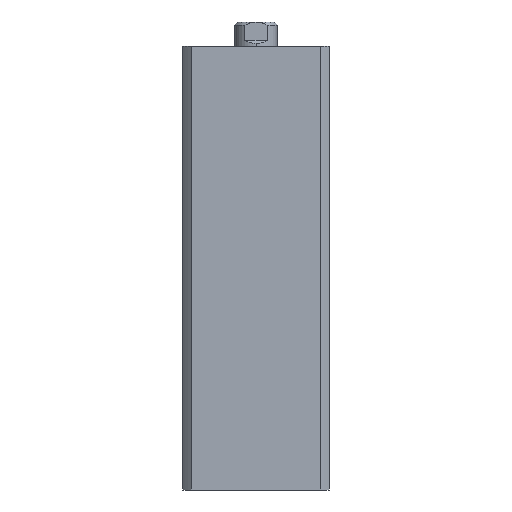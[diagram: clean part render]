
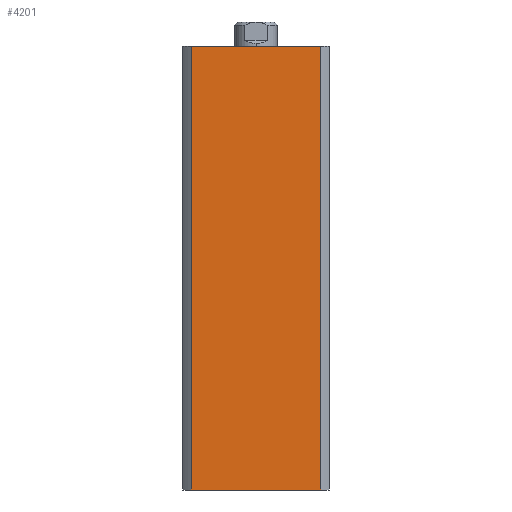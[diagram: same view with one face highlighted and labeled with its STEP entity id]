
A CAD part, left-side view. The second image highlights one B-rep face of the part: STEP entity #4201.
In plain terms, the highlighted planar face has unit normal (-1, 0, 0).
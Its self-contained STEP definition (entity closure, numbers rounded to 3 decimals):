
#44 = DIRECTION ( 'NONE',  ( 0., 0., -1. ) ) ;
#45 = CARTESIAN_POINT ( 'NONE',  ( -24., -21.166, 145. ) ) ;
#394 = EDGE_CURVE ( 'NONE', #4411, #4334, #2704, .T. ) ;
#412 = EDGE_CURVE ( 'NONE', #4334, #4384, #2670, .T. ) ;
#419 = EDGE_CURVE ( 'NONE', #4411, #4311, #2661, .T. ) ;
#528 = EDGE_CURVE ( 'NONE', #4311, #4384, #3374, .T. ) ;
#572 = AXIS2_PLACEMENT_3D ( 'NONE', #986, #994, #995 ) ;
#828 = EDGE_LOOP ( 'NONE', ( #3198, #2941, #2850, #2951 ) ) ;
#986 = CARTESIAN_POINT ( 'NONE',  ( -24., 0., 145. ) ) ;
#991 = PLANE ( 'NONE',  #572 ) ;
#994 = DIRECTION ( 'NONE',  ( 1., 0., 0. ) ) ;
#995 = DIRECTION ( 'NONE',  ( 0., 0., -1. ) ) ;
#1143 = CARTESIAN_POINT ( 'NONE',  ( -24., 21.166, 0. ) ) ;
#1166 = CARTESIAN_POINT ( 'NONE',  ( -24., -21.166, 145. ) ) ;
#1209 = CARTESIAN_POINT ( 'NONE',  ( -24., -21.166, 0. ) ) ;
#1236 = CARTESIAN_POINT ( 'NONE',  ( -24., 21.166, 145. ) ) ;
#1802 = CARTESIAN_POINT ( 'NONE',  ( -24., 0., 0. ) ) ;
#1821 = DIRECTION ( 'NONE',  ( 0., -1., 0. ) ) ;
#2201 = DIRECTION ( 'NONE',  ( 0., 0., -1. ) ) ;
#2202 = CARTESIAN_POINT ( 'NONE',  ( -24., 21.166, 145. ) ) ;
#2658 = VECTOR ( 'NONE', #2201, 1000. ) ;
#2661 = LINE ( 'NONE', #2202, #2658 ) ;
#2670 = LINE ( 'NONE', #45, #2675 ) ;
#2675 = VECTOR ( 'NONE', #44, 1000. ) ;
#2703 = VECTOR ( 'NONE', #3622, 1000. ) ;
#2704 = LINE ( 'NONE', #3745, #2703 ) ;
#2850 = ORIENTED_EDGE ( 'NONE', *, *, #394, .F. ) ;
#2941 = ORIENTED_EDGE ( 'NONE', *, *, #412, .F. ) ;
#2951 = ORIENTED_EDGE ( 'NONE', *, *, #419, .T. ) ;
#3198 = ORIENTED_EDGE ( 'NONE', *, *, #528, .T. ) ;
#3374 = LINE ( 'NONE', #1802, #3376 ) ;
#3376 = VECTOR ( 'NONE', #1821, 1000. ) ;
#3622 = DIRECTION ( 'NONE',  ( 0., -1., 0. ) ) ;
#3672 = FACE_OUTER_BOUND ( 'NONE', #828, .T. ) ;
#3745 = CARTESIAN_POINT ( 'NONE',  ( -24., 0., 145. ) ) ;
#4201 = ADVANCED_FACE ( 'NONE', ( #3672 ), #991, .F. ) ;
#4311 = VERTEX_POINT ( 'NONE', #1143 ) ;
#4334 = VERTEX_POINT ( 'NONE', #1166 ) ;
#4384 = VERTEX_POINT ( 'NONE', #1209 ) ;
#4411 = VERTEX_POINT ( 'NONE', #1236 ) ;
